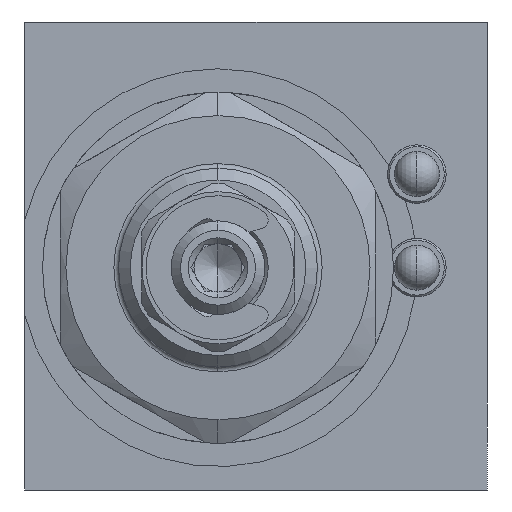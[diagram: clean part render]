
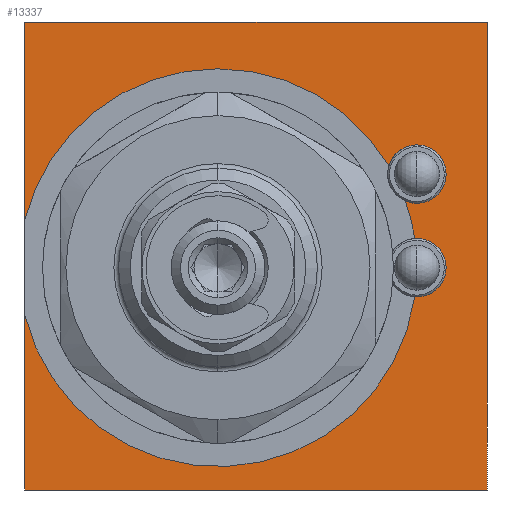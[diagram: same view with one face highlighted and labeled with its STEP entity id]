
A CAD part, left-side view. The second image highlights one B-rep face of the part: STEP entity #13337.
In plain terms, the highlighted planar face has unit normal (-1, 0, 0).
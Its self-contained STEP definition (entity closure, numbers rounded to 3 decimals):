
#271 = DIRECTION ( 'NONE',  ( 0., 0., 1. ) ) ;
#351 = CARTESIAN_POINT ( 'NONE',  ( 0., 19.75, 20. ) ) ;
#467 = ORIENTED_EDGE ( 'NONE', *, *, #4906, .F. ) ;
#517 = VERTEX_POINT ( 'NONE', #13466 ) ;
#549 = CARTESIAN_POINT ( 'NONE',  ( 0., -19.75, 20. ) ) ;
#649 = CARTESIAN_POINT ( 'NONE',  ( 0., -19.75, -20. ) ) ;
#937 = DIRECTION ( 'NONE',  ( 0., 0., 1. ) ) ;
#958 = DIRECTION ( 'NONE',  ( -1., 0., 0. ) ) ;
#960 = CARTESIAN_POINT ( 'NONE',  ( 0., 19.75, -20. ) ) ;
#996 = ORIENTED_EDGE ( 'NONE', *, *, #6318, .F. ) ;
#1095 = PLANE ( 'NONE',  #11497 ) ;
#1453 = ORIENTED_EDGE ( 'NONE', *, *, #6075, .T. ) ;
#1668 = ORIENTED_EDGE ( 'NONE', *, *, #6260, .F. ) ;
#1721 = DIRECTION ( 'NONE',  ( 0., 0., 1. ) ) ;
#1813 = CARTESIAN_POINT ( 'NONE',  ( 0., 19.75, 20. ) ) ;
#2226 = CARTESIAN_POINT ( 'NONE',  ( 0., -13.75, 1.5 ) ) ;
#2863 = AXIS2_PLACEMENT_3D ( 'NONE', #8113, #8089, #8072 ) ;
#2920 = DIRECTION ( 'NONE',  ( 1., 0., 0. ) ) ;
#2992 = CARTESIAN_POINT ( 'NONE',  ( 0., -19.75, 20. ) ) ;
#3558 = CIRCLE ( 'NONE', #3654, 2.5 ) ;
#3654 = AXIS2_PLACEMENT_3D ( 'NONE', #10917, #10879, #10800 ) ;
#3813 = DIRECTION ( 'NONE',  ( 0., 0., -1. ) ) ;
#3976 = VECTOR ( 'NONE', #10683, 1000. ) ;
#4038 = LINE ( 'NONE', #2992, #3976 ) ;
#4210 = CIRCLE ( 'NONE', #8437, 2.5 ) ;
#4247 = VECTOR ( 'NONE', #3813, 1000. ) ;
#4267 = CIRCLE ( 'NONE', #8531, 2.5 ) ;
#4319 = ORIENTED_EDGE ( 'NONE', *, *, #6394, .F. ) ;
#4353 = VERTEX_POINT ( 'NONE', #7777 ) ;
#4431 = VECTOR ( 'NONE', #14981, 1000. ) ;
#4635 = CIRCLE ( 'NONE', #8554, 2.5 ) ;
#4659 = LINE ( 'NONE', #5572, #4431 ) ;
#4787 = EDGE_CURVE ( 'NONE', #9805, #5291, #3558, .T. ) ;
#4850 = CARTESIAN_POINT ( 'NONE',  ( 0., 3.25, -1. ) ) ;
#4906 = EDGE_CURVE ( 'NONE', #10690, #9480, #13735, .T. ) ;
#4910 = CIRCLE ( 'NONE', #8765, 17. ) ;
#4921 = CIRCLE ( 'NONE', #8882, 2.5 ) ;
#4928 = LINE ( 'NONE', #8884, #4247 ) ;
#5094 = CARTESIAN_POINT ( 'NONE',  ( 0., -13.75, -3.5 ) ) ;
#5291 = VERTEX_POINT ( 'NONE', #2226 ) ;
#5572 = CARTESIAN_POINT ( 'NONE',  ( 0., -19.75, -20. ) ) ;
#5850 = EDGE_CURVE ( 'NONE', #4353, #517, #15634, .T. ) ;
#5990 = CARTESIAN_POINT ( 'NONE',  ( 0., -13.566, -3.493 ) ) ;
#6027 = EDGE_CURVE ( 'NONE', #12347, #12408, #15880, .T. ) ;
#6075 = EDGE_CURVE ( 'NONE', #517, #12282, #8759, .T. ) ;
#6190 = VERTEX_POINT ( 'NONE', #5990 ) ;
#6215 = DIRECTION ( 'NONE',  ( 0., 0., 1. ) ) ;
#6260 = EDGE_CURVE ( 'NONE', #4353, #11588, #9347, .T. ) ;
#6318 = EDGE_CURVE ( 'NONE', #14901, #15413, #7800, .T. ) ;
#6394 = EDGE_CURVE ( 'NONE', #6190, #9805, #4921, .T. ) ;
#6417 = EDGE_CURVE ( 'NONE', #6190, #15413, #4910, .T. ) ;
#6423 = EDGE_CURVE ( 'NONE', #6883, #14901, #4659, .T. ) ;
#6425 = EDGE_CURVE ( 'NONE', #13406, #6883, #4928, .T. ) ;
#6445 = EDGE_CURVE ( 'NONE', #11588, #13406, #4038, .T. ) ;
#6449 = EDGE_CURVE ( 'NONE', #9480, #12282, #4635, .T. ) ;
#6464 = EDGE_CURVE ( 'NONE', #12347, #10690, #4267, .T. ) ;
#6466 = EDGE_CURVE ( 'NONE', #5291, #12408, #4210, .T. ) ;
#6883 = VERTEX_POINT ( 'NONE', #649 ) ;
#7267 = CARTESIAN_POINT ( 'NONE',  ( 0., -13.566, 1.493 ) ) ;
#7585 = DIRECTION ( 'NONE',  ( 0., 0., 1. ) ) ;
#7777 = CARTESIAN_POINT ( 'NONE',  ( 0., 19.75, 3.092 ) ) ;
#7800 = LINE ( 'NONE', #351, #7997 ) ;
#7910 = CARTESIAN_POINT ( 'NONE',  ( 0., 19.75, -5.092 ) ) ;
#7997 = VECTOR ( 'NONE', #271, 1000. ) ;
#8072 = DIRECTION ( 'NONE',  ( 0., 0., 1. ) ) ;
#8089 = DIRECTION ( 'NONE',  ( -1., 0., 0. ) ) ;
#8101 = CARTESIAN_POINT ( 'NONE',  ( 0., -12.765, 4.702 ) ) ;
#8113 = CARTESIAN_POINT ( 'NONE',  ( 0., -13.75, 7. ) ) ;
#8160 = CARTESIAN_POINT ( 'NONE',  ( 0., -13.75, -1. ) ) ;
#8407 = EDGE_LOOP ( 'NONE', ( #4319, #9494, #996, #10243, #15704, #12413, #1668, #15276, #1453, #10306, #467, #13277, #13666, #16086, #11793 ) ) ;
#8437 = AXIS2_PLACEMENT_3D ( 'NONE', #8160, #12548, #16815 ) ;
#8531 = AXIS2_PLACEMENT_3D ( 'NONE', #10197, #13744, #6215 ) ;
#8554 = AXIS2_PLACEMENT_3D ( 'NONE', #10342, #16297, #7585 ) ;
#8759 = CIRCLE ( 'NONE', #13118, 17. ) ;
#8765 = AXIS2_PLACEMENT_3D ( 'NONE', #4850, #2920, #13357 ) ;
#8882 = AXIS2_PLACEMENT_3D ( 'NONE', #9749, #9635, #9810 ) ;
#8884 = CARTESIAN_POINT ( 'NONE',  ( 0., -19.75, 20. ) ) ;
#9324 = VECTOR ( 'NONE', #1721, 1000. ) ;
#9347 = LINE ( 'NONE', #1813, #9324 ) ;
#9447 = CARTESIAN_POINT ( 'NONE',  ( 0., -11.352, 7.706 ) ) ;
#9480 = VERTEX_POINT ( 'NONE', #9726 ) ;
#9494 = ORIENTED_EDGE ( 'NONE', *, *, #6417, .T. ) ;
#9635 = DIRECTION ( 'NONE',  ( -1., 0., 0. ) ) ;
#9726 = CARTESIAN_POINT ( 'NONE',  ( 0., -13.75, 9.5 ) ) ;
#9749 = CARTESIAN_POINT ( 'NONE',  ( 0., -13.75, -1. ) ) ;
#9805 = VERTEX_POINT ( 'NONE', #5094 ) ;
#9810 = DIRECTION ( 'NONE',  ( 0., 0., 1. ) ) ;
#10162 = DIRECTION ( 'NONE',  ( 0., 0., 1. ) ) ;
#10197 = CARTESIAN_POINT ( 'NONE',  ( 0., -13.75, 7. ) ) ;
#10218 = DIRECTION ( 'NONE',  ( 1., 0., 0. ) ) ;
#10243 = ORIENTED_EDGE ( 'NONE', *, *, #6423, .F. ) ;
#10244 = CARTESIAN_POINT ( 'NONE',  ( 0., 3.25, -1. ) ) ;
#10306 = ORIENTED_EDGE ( 'NONE', *, *, #6449, .F. ) ;
#10342 = CARTESIAN_POINT ( 'NONE',  ( 0., -13.75, 7. ) ) ;
#10683 = DIRECTION ( 'NONE',  ( 0., -1., 0. ) ) ;
#10690 = VERTEX_POINT ( 'NONE', #11999 ) ;
#10800 = DIRECTION ( 'NONE',  ( 0., 0., 1. ) ) ;
#10879 = DIRECTION ( 'NONE',  ( -1., 0., 0. ) ) ;
#10917 = CARTESIAN_POINT ( 'NONE',  ( 0., -13.75, -1. ) ) ;
#11283 = DIRECTION ( 'NONE',  ( 0., 0., 1. ) ) ;
#11328 = DIRECTION ( 'NONE',  ( 1., 0., 0. ) ) ;
#11388 = CARTESIAN_POINT ( 'NONE',  ( 0., 3.25, -1. ) ) ;
#11497 = AXIS2_PLACEMENT_3D ( 'NONE', #960, #958, #937 ) ;
#11588 = VERTEX_POINT ( 'NONE', #14166 ) ;
#11793 = ORIENTED_EDGE ( 'NONE', *, *, #4787, .F. ) ;
#11999 = CARTESIAN_POINT ( 'NONE',  ( 0., -13.75, 4.5 ) ) ;
#12160 = CARTESIAN_POINT ( 'NONE',  ( 0., 19.75, -20. ) ) ;
#12206 = FACE_OUTER_BOUND ( 'NONE', #8407, .T. ) ;
#12282 = VERTEX_POINT ( 'NONE', #9447 ) ;
#12347 = VERTEX_POINT ( 'NONE', #8101 ) ;
#12408 = VERTEX_POINT ( 'NONE', #7267 ) ;
#12413 = ORIENTED_EDGE ( 'NONE', *, *, #6445, .F. ) ;
#12548 = DIRECTION ( 'NONE',  ( -1., 0., 0. ) ) ;
#13118 = AXIS2_PLACEMENT_3D ( 'NONE', #10244, #10218, #10162 ) ;
#13277 = ORIENTED_EDGE ( 'NONE', *, *, #6464, .F. ) ;
#13337 = ADVANCED_FACE ( 'NONE', ( #12206 ), #1095, .T. ) ;
#13357 = DIRECTION ( 'NONE',  ( 0., 0., 1. ) ) ;
#13406 = VERTEX_POINT ( 'NONE', #549 ) ;
#13450 = AXIS2_PLACEMENT_3D ( 'NONE', #11388, #11328, #11283 ) ;
#13466 = CARTESIAN_POINT ( 'NONE',  ( 0., 3.25, 16. ) ) ;
#13666 = ORIENTED_EDGE ( 'NONE', *, *, #6027, .T. ) ;
#13735 = CIRCLE ( 'NONE', #2863, 2.5 ) ;
#13744 = DIRECTION ( 'NONE',  ( -1., 0., 0. ) ) ;
#14166 = CARTESIAN_POINT ( 'NONE',  ( 0., 19.75, 20. ) ) ;
#14673 = AXIS2_PLACEMENT_3D ( 'NONE', #16407, #16393, #16355 ) ;
#14901 = VERTEX_POINT ( 'NONE', #12160 ) ;
#14981 = DIRECTION ( 'NONE',  ( 0., 1., 0. ) ) ;
#15276 = ORIENTED_EDGE ( 'NONE', *, *, #5850, .T. ) ;
#15413 = VERTEX_POINT ( 'NONE', #7910 ) ;
#15634 = CIRCLE ( 'NONE', #14673, 17. ) ;
#15704 = ORIENTED_EDGE ( 'NONE', *, *, #6425, .F. ) ;
#15880 = CIRCLE ( 'NONE', #13450, 17. ) ;
#16086 = ORIENTED_EDGE ( 'NONE', *, *, #6466, .F. ) ;
#16297 = DIRECTION ( 'NONE',  ( -1., 0., 0. ) ) ;
#16355 = DIRECTION ( 'NONE',  ( 0., 0., 1. ) ) ;
#16393 = DIRECTION ( 'NONE',  ( 1., 0., 0. ) ) ;
#16407 = CARTESIAN_POINT ( 'NONE',  ( 0., 3.25, -1. ) ) ;
#16815 = DIRECTION ( 'NONE',  ( 0., 0., 1. ) ) ;
